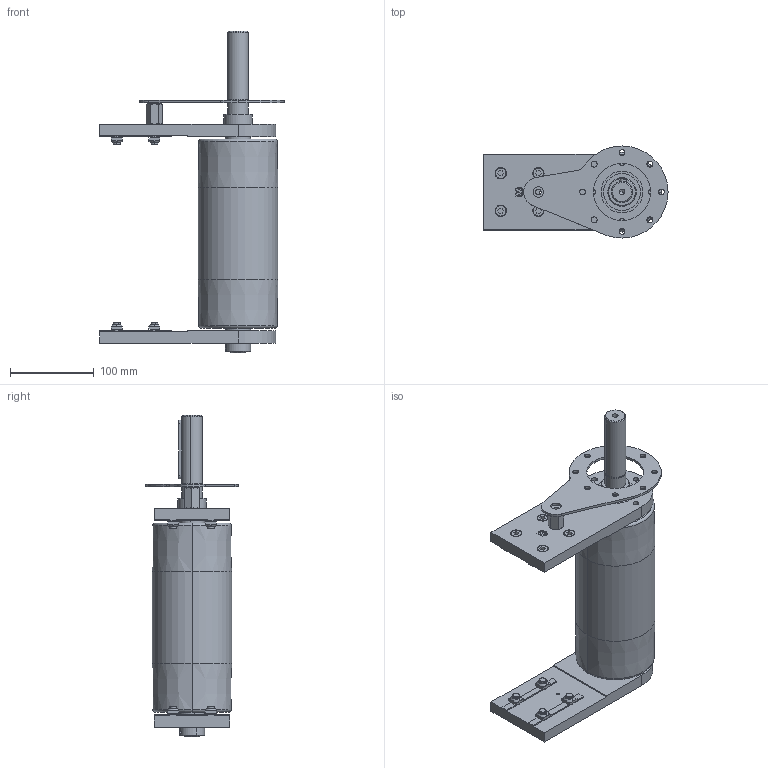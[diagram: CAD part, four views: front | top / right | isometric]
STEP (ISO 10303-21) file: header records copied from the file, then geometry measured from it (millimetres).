
FILE_DESCRIPTION (( 'STEP AP203' ), '1' );
FILE_NAME ('084.095.KDC.49.200.STEP', '2015-06-03T08:04:46', ( '' ), ( '' ), 'SwSTEP 2.0', 'SolidWorks 2012', '' );
FILE_SCHEMA (( 'CONFIG_CONTROL_DESIGN' ));
Length unit declared in the file: millimetre
Products named in the file (1): 084.095.KDC.49.200
Bounding box: 220 x 110 x 384.5 mm (x, y, z)
Volume: 1181782.7 mm3; surface area: 452871 mm2
Topology: 35 solids, 36 shells, 846 faces, 2123 edges, 1382 vertices
Faces by surface type: plane 360, cylinder 298, torus 76, cone 55, bspline 48, sphere 9
Entity records: 26606 total; most frequent: CARTESIAN_POINT 5841, DIRECTION 4431, ORIENTED_EDGE 4202, EDGE_CURVE 2101, AXIS2_PLACEMENT_3D 1717, VERTEX_POINT 1371, EDGE_LOOP 1002, LINE 997
